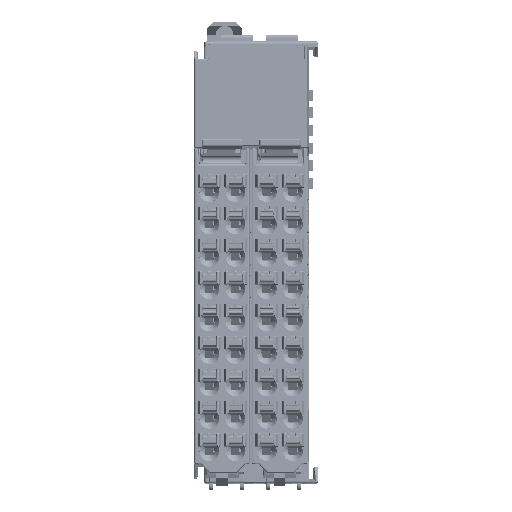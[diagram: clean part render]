
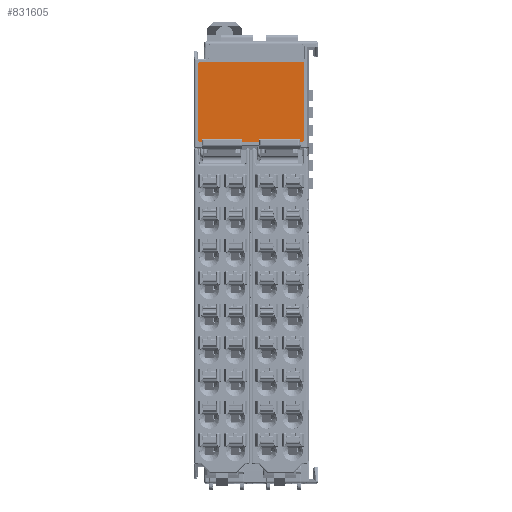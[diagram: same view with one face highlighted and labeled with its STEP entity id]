
A CAD part, top view. The second image highlights one B-rep face of the part: STEP entity #831605.
In plain terms, the highlighted planar face has unit normal (0, 0, 1).
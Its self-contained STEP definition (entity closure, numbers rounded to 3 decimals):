
#831456=CARTESIAN_POINT('',(35.7,-34.04,64.65));
#831457=VERTEX_POINT('',#831456);
#831458=CARTESIAN_POINT('',(35.7,-16.85,64.65));
#831459=VERTEX_POINT('',#831458);
#831460=CARTESIAN_POINT('',(35.7,-34.04,64.65));
#831461=DIRECTION('',(0.,1.,0.));
#831462=VECTOR('',#831461,17.19);
#831463=LINE('',#831460,#831462);
#831464=EDGE_CURVE('',#831457,#831459,#831463,.T.);
#831491=CARTESIAN_POINT('',(32.712,-14.139,64.65));
#831492=DIRECTION('',(1.,0.,0.));
#831493=DIRECTION('',(0.,0.,1.));
#831494=AXIS2_PLACEMENT_3D('',#831491,#831493,#831492);
#831495=PLANE('',#831494);
#831496=CARTESIAN_POINT('',(59.6,-16.4,64.65));
#831497=VERTEX_POINT('',#831496);
#831498=CARTESIAN_POINT('',(36.15,-16.4,64.65));
#831499=VERTEX_POINT('',#831498);
#831500=CARTESIAN_POINT('',(59.6,-16.4,64.65));
#831501=DIRECTION('',(-1.,0.,0.));
#831502=VECTOR('',#831501,23.45);
#831503=LINE('',#831500,#831502);
#831504=EDGE_CURVE('',#831497,#831499,#831503,.T.);
#831505=ORIENTED_EDGE('',*,*,#831504,.T.);
#831506=CARTESIAN_POINT('',(35.832,-16.532,64.65));
#831507=VERTEX_POINT('',#831506);
#831508=CARTESIAN_POINT('',(36.15,-16.4,64.65));
#831509=CARTESIAN_POINT('',(36.122,-16.4,64.65));
#831510=CARTESIAN_POINT('',(36.093,-16.402,64.65));
#831511=CARTESIAN_POINT('',(36.065,-16.407,64.65));
#831512=CARTESIAN_POINT('',(35.996,-16.423,64.65));
#831513=CARTESIAN_POINT('',(35.932,-16.453,64.65));
#831514=CARTESIAN_POINT('',(35.896,-16.475,64.65));
#831515=CARTESIAN_POINT('',(35.862,-16.502,64.65));
#831516=CARTESIAN_POINT('',(35.832,-16.532,64.65));
#831517=B_SPLINE_CURVE_WITH_KNOTS('',5,(#831508,#831509,#831510,#831511,#831512,#831513,#831514,#831515,#831516),.UNSPECIFIED.,.F.,.U.,(6,3,6),(0.,0.202,0.506),.UNSPECIFIED.);
#831518=EDGE_CURVE('',#831499,#831507,#831517,.T.);
#831519=ORIENTED_EDGE('',*,*,#831518,.T.);
#831520=CARTESIAN_POINT('',(35.832,-16.532,64.65));
#831521=CARTESIAN_POINT('',(35.812,-16.552,64.65));
#831522=CARTESIAN_POINT('',(35.793,-16.573,64.65));
#831523=CARTESIAN_POINT('',(35.777,-16.597,64.65));
#831524=CARTESIAN_POINT('',(35.74,-16.657,64.65));
#831525=CARTESIAN_POINT('',(35.715,-16.723,64.65));
#831526=CARTESIAN_POINT('',(35.705,-16.765,64.65));
#831527=CARTESIAN_POINT('',(35.7,-16.807,64.65));
#831528=CARTESIAN_POINT('',(35.7,-16.85,64.65));
#831529=B_SPLINE_CURVE_WITH_KNOTS('',5,(#831520,#831521,#831522,#831523,#831524,#831525,#831526,#831527,#831528),.UNSPECIFIED.,.F.,.U.,(6,3,6),(0.,0.202,0.506),.UNSPECIFIED.);
#831530=EDGE_CURVE('',#831507,#831459,#831529,.T.);
#831531=ORIENTED_EDGE('',*,*,#831530,.T.);
#831532=ORIENTED_EDGE('',*,*,#831464,.F.);
#831533=CARTESIAN_POINT('',(35.832,-34.358,64.65));
#831534=VERTEX_POINT('',#831533);
#831535=CARTESIAN_POINT('',(35.7,-34.04,64.65));
#831536=CARTESIAN_POINT('',(35.7,-34.068,64.65));
#831537=CARTESIAN_POINT('',(35.702,-34.096,64.65));
#831538=CARTESIAN_POINT('',(35.707,-34.125,64.65));
#831539=CARTESIAN_POINT('',(35.723,-34.193,64.65));
#831540=CARTESIAN_POINT('',(35.753,-34.258,64.65));
#831541=CARTESIAN_POINT('',(35.775,-34.294,64.65));
#831542=CARTESIAN_POINT('',(35.802,-34.328,64.65));
#831543=CARTESIAN_POINT('',(35.832,-34.358,64.65));
#831544=B_SPLINE_CURVE_WITH_KNOTS('',5,(#831535,#831536,#831537,#831538,#831539,#831540,#831541,#831542,#831543),.UNSPECIFIED.,.F.,.U.,(6,3,6),(0.,0.202,0.506),.UNSPECIFIED.);
#831545=EDGE_CURVE('',#831457,#831534,#831544,.T.);
#831546=ORIENTED_EDGE('',*,*,#831545,.T.);
#831547=CARTESIAN_POINT('',(36.15,-34.49,64.65));
#831548=VERTEX_POINT('',#831547);
#831549=CARTESIAN_POINT('',(35.832,-34.358,64.65));
#831550=CARTESIAN_POINT('',(35.852,-34.378,64.65));
#831551=CARTESIAN_POINT('',(35.874,-34.396,64.65));
#831552=CARTESIAN_POINT('',(35.897,-34.413,64.65));
#831553=CARTESIAN_POINT('',(35.957,-34.45,64.65));
#831554=CARTESIAN_POINT('',(36.023,-34.475,64.65));
#831555=CARTESIAN_POINT('',(36.065,-34.485,64.65));
#831556=CARTESIAN_POINT('',(36.107,-34.49,64.65));
#831557=CARTESIAN_POINT('',(36.15,-34.49,64.65));
#831558=B_SPLINE_CURVE_WITH_KNOTS('',5,(#831549,#831550,#831551,#831552,#831553,#831554,#831555,#831556,#831557),.UNSPECIFIED.,.F.,.U.,(6,3,6),(0.,0.202,0.506),.UNSPECIFIED.);
#831559=EDGE_CURVE('',#831534,#831548,#831558,.T.);
#831560=ORIENTED_EDGE('',*,*,#831559,.T.);
#831561=CARTESIAN_POINT('',(59.15,-34.49,64.65));
#831562=VERTEX_POINT('',#831561);
#831563=CARTESIAN_POINT('',(36.15,-34.49,64.65));
#831564=DIRECTION('',(1.,0.,0.));
#831565=VECTOR('',#831564,23.);
#831566=LINE('',#831563,#831565);
#831567=EDGE_CURVE('',#831548,#831562,#831566,.T.);
#831568=ORIENTED_EDGE('',*,*,#831567,.T.);
#831569=CARTESIAN_POINT('',(59.468,-34.358,64.65));
#831570=VERTEX_POINT('',#831569);
#831571=CARTESIAN_POINT('',(59.15,-34.49,64.65));
#831572=CARTESIAN_POINT('',(59.178,-34.49,64.65));
#831573=CARTESIAN_POINT('',(59.207,-34.487,64.65));
#831574=CARTESIAN_POINT('',(59.235,-34.483,64.65));
#831575=CARTESIAN_POINT('',(59.304,-34.466,64.65));
#831576=CARTESIAN_POINT('',(59.368,-34.437,64.65));
#831577=CARTESIAN_POINT('',(59.405,-34.414,64.65));
#831578=CARTESIAN_POINT('',(59.438,-34.388,64.65));
#831579=CARTESIAN_POINT('',(59.468,-34.358,64.65));
#831580=B_SPLINE_CURVE_WITH_KNOTS('',5,(#831571,#831572,#831573,#831574,#831575,#831576,#831577,#831578,#831579),.UNSPECIFIED.,.F.,.U.,(6,3,6),(0.,0.202,0.506),.UNSPECIFIED.);
#831581=EDGE_CURVE('',#831562,#831570,#831580,.T.);
#831582=ORIENTED_EDGE('',*,*,#831581,.T.);
#831583=CARTESIAN_POINT('',(59.6,-34.04,64.65));
#831584=VERTEX_POINT('',#831583);
#831585=CARTESIAN_POINT('',(59.468,-34.358,64.65));
#831586=CARTESIAN_POINT('',(59.488,-34.338,64.65));
#831587=CARTESIAN_POINT('',(59.507,-34.316,64.65));
#831588=CARTESIAN_POINT('',(59.524,-34.293,64.65));
#831589=CARTESIAN_POINT('',(59.56,-34.233,64.65));
#831590=CARTESIAN_POINT('',(59.585,-34.166,64.65));
#831591=CARTESIAN_POINT('',(59.595,-34.125,64.65));
#831592=CARTESIAN_POINT('',(59.6,-34.082,64.65));
#831593=CARTESIAN_POINT('',(59.6,-34.04,64.65));
#831594=B_SPLINE_CURVE_WITH_KNOTS('',5,(#831585,#831586,#831587,#831588,#831589,#831590,#831591,#831592,#831593),.UNSPECIFIED.,.F.,.U.,(6,3,6),(0.,0.202,0.506),.UNSPECIFIED.);
#831595=EDGE_CURVE('',#831570,#831584,#831594,.T.);
#831596=ORIENTED_EDGE('',*,*,#831595,.T.);
#831597=CARTESIAN_POINT('',(59.6,-34.04,64.65));
#831598=DIRECTION('',(0.,1.,0.));
#831599=VECTOR('',#831598,17.64);
#831600=LINE('',#831597,#831599);
#831601=EDGE_CURVE('',#831584,#831497,#831600,.T.);
#831602=ORIENTED_EDGE('',*,*,#831601,.T.);
#831603=EDGE_LOOP('',(#831505,#831519,#831531,#831532,#831546,#831560,#831568,#831582,#831596,#831602));
#831604=FACE_OUTER_BOUND('',#831603,.T.);
#831605=ADVANCED_FACE('',(#831604),#831495,.T.);
